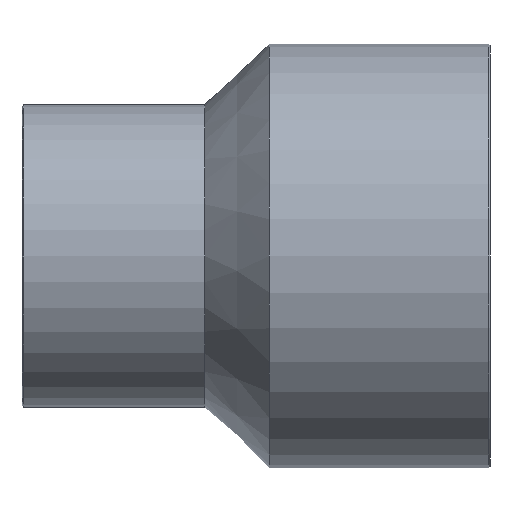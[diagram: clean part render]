
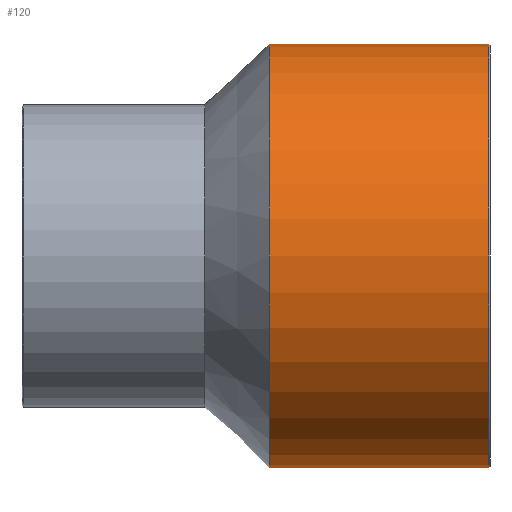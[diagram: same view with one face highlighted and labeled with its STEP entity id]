
A CAD part, front view. The second image highlights one B-rep face of the part: STEP entity #120.
In plain terms, the highlighted cylindrical face has radius 157.5 mm (diameter 315 mm), a full revolution.
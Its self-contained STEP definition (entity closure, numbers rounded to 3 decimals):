
#26=ORIENTED_EDGE('',*,*,#46,.T.);
#27=ORIENTED_EDGE('',*,*,#47,.F.);
#46=EDGE_CURVE('',#56,#56,#66,.T.);
#47=EDGE_CURVE('',#57,#57,#67,.T.);
#56=VERTEX_POINT('',#208);
#57=VERTEX_POINT('',#210);
#66=CIRCLE('',#144,157.5);
#67=CIRCLE('',#145,157.5);
#76=EDGE_LOOP('',(#26));
#77=EDGE_LOOP('',(#27));
#96=FACE_BOUND('',#76,.T.);
#97=FACE_BOUND('',#77,.T.);
#116=CYLINDRICAL_SURFACE('',#143,157.5);
#120=ADVANCED_FACE('',(#96,#97),#116,.T.);
#143=AXIS2_PLACEMENT_3D('',#206,#165,#166);
#144=AXIS2_PLACEMENT_3D('',#207,#167,#168);
#145=AXIS2_PLACEMENT_3D('',#209,#169,#170);
#165=DIRECTION('',(-1.,0.,0.));
#166=DIRECTION('',(0.,0.,1.));
#167=DIRECTION('',(-1.,0.,0.));
#168=DIRECTION('',(0.,0.,1.));
#169=DIRECTION('',(-1.,0.,0.));
#170=DIRECTION('',(0.,0.,1.));
#206=CARTESIAN_POINT('',(-60.,0.,0.));
#207=CARTESIAN_POINT('',(187.,0.,0.));
#208=CARTESIAN_POINT('',(187.,0.,157.5));
#209=CARTESIAN_POINT('',(24.,0.,0.));
#210=CARTESIAN_POINT('',(24.,0.,157.5));
